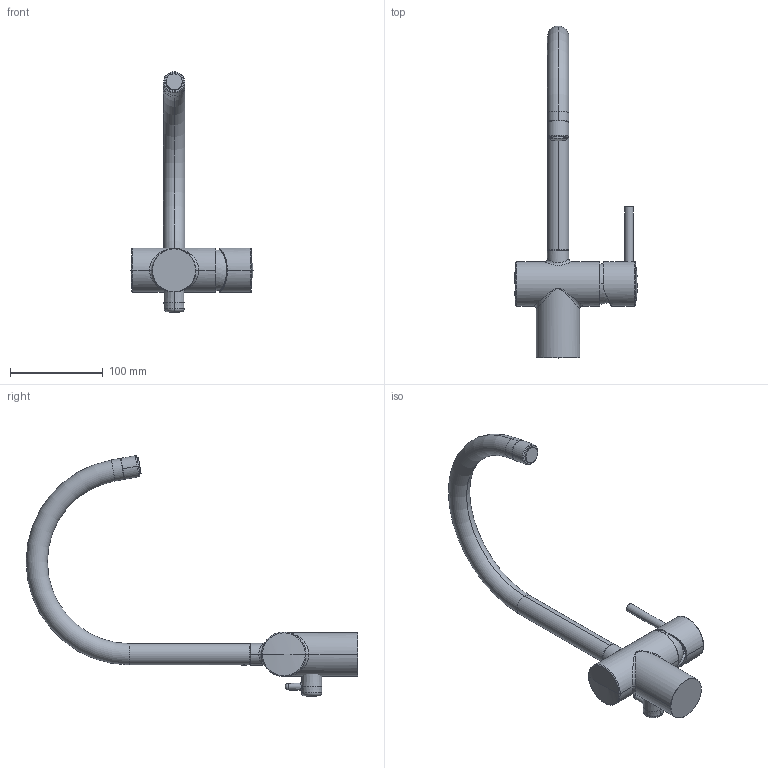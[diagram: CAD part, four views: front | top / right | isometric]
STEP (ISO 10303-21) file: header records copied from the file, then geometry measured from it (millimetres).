
FILE_DESCRIPTION((''),'2;1');
FILE_NAME('18075--00_SUB01_SW0001','2026-09-10T11:43:43',('simi1'),(''),'CREO PARAMETRIC BY PTC INC, 2022244','CREO PARAMETRIC BY PTC INC, 2022244','');
FILE_SCHEMA(('CONFIG_CONTROL_DESIGN'));
Length unit declared in the file: millimetre
Products named in the file (1): 18075--00_SUB01_SW0001
Bounding box: 132.6 x 358.32 x 259.78 mm (x, y, z)
Surface area: 82828.2 mm2 (no closed solid volume)
Topology: 0 solids, 27 shells, 268 faces, 911 edges, 644 vertices
Faces by surface type: bspline 91, cylinder 56, torus 46, plane 36, sphere 25, cone 14
Entity records: 15400 total; most frequent: CARTESIAN_POINT 8200, DIRECTION 1504, ORIENTED_EDGE 1384, EDGE_CURVE 901, AXIS2_PLACEMENT_3D 677, VERTEX_POINT 644, CIRCLE 500, EDGE_LOOP 268
